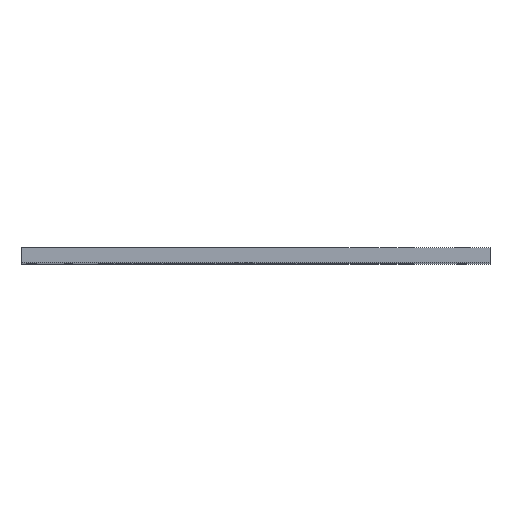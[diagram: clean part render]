
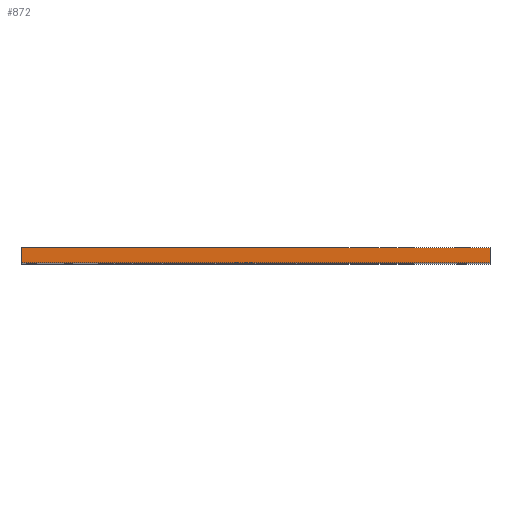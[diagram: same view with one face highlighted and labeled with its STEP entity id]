
A CAD part, top view. The second image highlights one B-rep face of the part: STEP entity #872.
In plain terms, the highlighted planar face has unit normal (0, 0, 1).
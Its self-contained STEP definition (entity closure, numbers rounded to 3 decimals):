
#122 = EDGE_CURVE ( 'NONE', #768, #1402, #1675, .T. ) ;
#294 = DIRECTION ( 'NONE',  ( 1., 0., 0. ) ) ;
#334 = ORIENTED_EDGE ( 'NONE', *, *, #1707, .F. ) ;
#486 = CARTESIAN_POINT ( 'NONE',  ( 250., 8., 0. ) ) ;
#521 = VERTEX_POINT ( 'NONE', #935 ) ;
#630 = CARTESIAN_POINT ( 'NONE',  ( 0., 8., 0. ) ) ;
#749 = LINE ( 'NONE', #630, #994 ) ;
#768 = VERTEX_POINT ( 'NONE', #1083 ) ;
#777 = ORIENTED_EDGE ( 'NONE', *, *, #2134, .T. ) ;
#789 = PLANE ( 'NONE',  #2259 ) ;
#872 = ADVANCED_FACE ( 'NONE', ( #908 ), #789, .F. ) ;
#908 = FACE_OUTER_BOUND ( 'NONE', #1283, .T. ) ;
#935 = CARTESIAN_POINT ( 'NONE',  ( 0., 0., 0. ) ) ;
#991 = CARTESIAN_POINT ( 'NONE',  ( 0., 8., 0. ) ) ;
#994 = VECTOR ( 'NONE', #1156, 1000. ) ;
#1054 = ORIENTED_EDGE ( 'NONE', *, *, #1272, .T. ) ;
#1059 = ORIENTED_EDGE ( 'NONE', *, *, #122, .F. ) ;
#1078 = VECTOR ( 'NONE', #2213, 1000. ) ;
#1083 = CARTESIAN_POINT ( 'NONE',  ( 0., 8., 0. ) ) ;
#1156 = DIRECTION ( 'NONE',  ( 0., -1., 0. ) ) ;
#1170 = DIRECTION ( 'NONE',  ( 0., 0., -1. ) ) ;
#1183 = LINE ( 'NONE', #1895, #1184 ) ;
#1184 = VECTOR ( 'NONE', #294, 1000. ) ;
#1261 = VECTOR ( 'NONE', #1727, 1000. ) ;
#1272 = EDGE_CURVE ( 'NONE', #768, #521, #749, .T. ) ;
#1283 = EDGE_LOOP ( 'NONE', ( #777, #334, #1059, #1054 ) ) ;
#1312 = DIRECTION ( 'NONE',  ( -1., 0., 0. ) ) ;
#1402 = VERTEX_POINT ( 'NONE', #1722 ) ;
#1597 = VERTEX_POINT ( 'NONE', #2032 ) ;
#1675 = LINE ( 'NONE', #2192, #1078 ) ;
#1707 = EDGE_CURVE ( 'NONE', #1402, #1597, #1929, .T. ) ;
#1722 = CARTESIAN_POINT ( 'NONE',  ( 250., 8., 0. ) ) ;
#1727 = DIRECTION ( 'NONE',  ( 0., -1., 0. ) ) ;
#1895 = CARTESIAN_POINT ( 'NONE',  ( 0., 0., 0. ) ) ;
#1929 = LINE ( 'NONE', #486, #1261 ) ;
#2032 = CARTESIAN_POINT ( 'NONE',  ( 250., 0., 0. ) ) ;
#2134 = EDGE_CURVE ( 'NONE', #521, #1597, #1183, .T. ) ;
#2192 = CARTESIAN_POINT ( 'NONE',  ( 0., 8., 0. ) ) ;
#2213 = DIRECTION ( 'NONE',  ( 1., 0., 0. ) ) ;
#2259 = AXIS2_PLACEMENT_3D ( 'NONE', #991, #1170, #1312 ) ;
